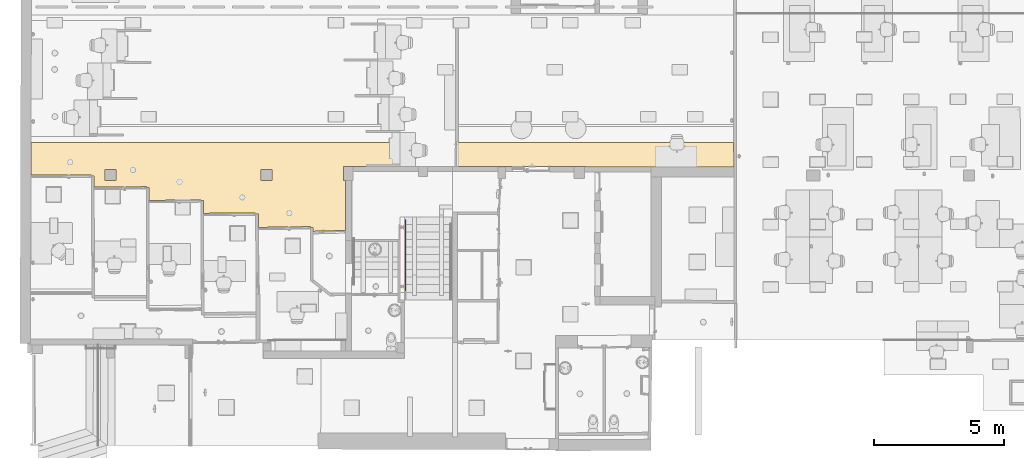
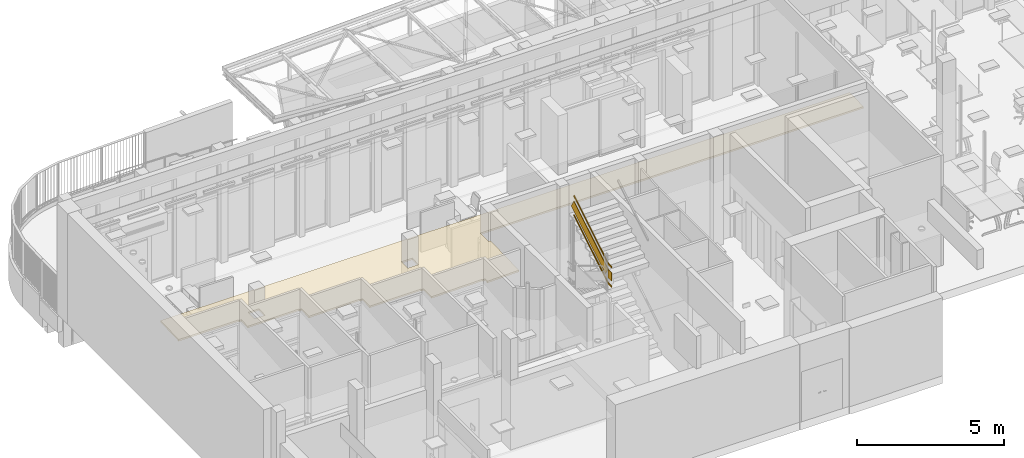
# One storey, part 59 of 128: 1 covering, 1 railing.
"""IFC2X3 building model written with IfcOpenShell, lengths in metres."""

from ifc_helpers import new_model, entity, si_unit, converted_unit, derived_unit, direction, frame, origin, place, context, subcontext, project, spatial, faceted_brep, material, material_list, layer, layer_set, layer_usage, type_object, element, save


model = new_model("IFC2X3")

# Units and contexts
model_context = context("Model", 3, precision=1e-05, world=origin(), true_north=direction((6.123031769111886e-17, 1.0)))
body_context = subcontext(model_context, "Body", "Model", "MODEL_VIEW")
ifc_project = project(units=[si_unit("LENGTHUNIT", "METRE"), si_unit("AREAUNIT", "SQUARE_METRE"), converted_unit("PLANEANGLEUNIT", "DEGREE", entity("IfcPlaneAngleMeasure", 0.017453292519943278), si_unit("PLANEANGLEUNIT", "RADIAN"), dimensions=[0, 0, 0, 0, 0, 0, 0]), derived_unit("THERMALTRANSMITTANCEUNIT", [(si_unit("MASSUNIT", "GRAM", prefix="KILO"), 1), (si_unit("THERMODYNAMICTEMPERATUREUNIT", "KELVIN"), -1), (si_unit("TIMEUNIT", "SECOND"), -3)])], contexts=[model_context])

# Site, building, storey
site_placement = place(None, origin())
site = spatial("IfcSite", under=ifc_project, at=site_placement, Name="Default", CompositionType="ELEMENT")
building_placement = place(site_placement, origin())
building = spatial("IfcBuilding", under=site, at=building_placement, CompositionType="ELEMENT")
storey_placement = place(building_placement, origin())
storey = spatial("IfcBuildingStorey", under=building, at=storey_placement, Name="00_RDC CAF", CompositionType="ELEMENT", Elevation=2.4982504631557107e-13)

# Covering
ifc_material_1 = material(Name="ARC - FP - Blanc")
ifc_layer_1 = layer(ifc_material_1, 0.02)
ifc_material_2 = material(Name="ARC - FP - Trame 600 x 600")
ifc_layer_2 = layer(ifc_material_2, 0.05)
ifc_layer_set = layer_set([ifc_layer_1, ifc_layer_2], Name="Plafond composé:FP_Dalle-600X600_70mm")
ifc_layer_usage = layer_usage(ifc_layer_set, "AXIS3", "NEGATIVE", 0.07)
covering_type = type_object("IfcCoveringType", Name="Plafond composé:FP_Dalle-600X600_70mm", PredefinedType="CEILING")
covering_placement = place(storey_placement, frame((6.6795143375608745, 134.38500959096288, 3.276880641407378)))
element("IfcCovering", 1, at=covering_placement, inside=storey, type_object=covering_type, material=ifc_layer_usage, Name="Plafond composé:FP_Dalle-600X600_70mm", ObjectType="Plafond composé:FP_Dalle-600X600_70mm", PredefinedType="CEILING", context=body_context, shape_type="Brep", body=[
    faceted_brep([(10.839464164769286, 0.0, 0.07003149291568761), (12.091199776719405, 0.032308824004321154, 0.07100075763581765), (10.839464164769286, 0.15274109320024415, 0.0746137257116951), (12.008007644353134, 1.9471749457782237, 0.1284467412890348), (12.091199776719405, 1.9471749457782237, 0.1284467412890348), (10.738803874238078, 0.1799486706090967, 0.07542995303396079), (9.265875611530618, 1.952738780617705, 0.12861365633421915), (9.265875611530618, 2.3727387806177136, 0.14121365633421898), (12.008007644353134, 2.4973949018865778, 0.1449533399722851), (8.845875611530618, 2.3727387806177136, 0.14121365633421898), (0.003583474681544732, 3.405724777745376, 0.17220323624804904), (26.997846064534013, 3.4057247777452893, 0.17220323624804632), (16.219620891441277, 2.4973949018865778, 0.1449533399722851), (21.86122971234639, 2.477775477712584, 0.14436475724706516), (26.99847640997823, 2.4777754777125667, 0.1443647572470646), (3.2638756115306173, 2.37673878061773, 0.1413336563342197), (2.8438756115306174, 2.37673878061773, 0.1413336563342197), (2.329076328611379, 2.1617878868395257, 0.13488512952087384), (0.0, 2.1695078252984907, 0.13511672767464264), (2.4288949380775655, 2.1320965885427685, 0.133994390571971), (2.3289906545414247, 2.1321115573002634, 0.1339948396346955), (2.8438756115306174, 1.9567387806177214, 0.12873365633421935), (2.430094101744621, 1.6933038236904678, 0.1208306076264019), (3.2638756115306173, 1.9567387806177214, 0.12873365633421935), (4.431200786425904, 1.713518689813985, 0.12143705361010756), (4.531625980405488, 1.6790051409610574, 0.12040164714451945), (4.431552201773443, 1.678731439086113, 0.1203934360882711), (6.530310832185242, 1.206475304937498, 0.10622575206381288), (4.532973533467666, 1.1862985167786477, 0.10562044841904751), (6.6304035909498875, 1.1753215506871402, 0.10529113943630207), (6.530310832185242, 1.1753215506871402, 0.10529113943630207), (8.845875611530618, 1.952738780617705, 0.12861365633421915), (8.633994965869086, 0.7035087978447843, 0.09113675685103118), (6.632068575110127, 0.6922209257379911, 0.09079812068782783), (8.734225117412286, 0.6681077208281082, 0.09007472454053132), (8.634196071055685, 0.6678459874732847, 0.09006687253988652), (8.73557988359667, 0.15034425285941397, 0.07454182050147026), (10.739205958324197, 0.15274109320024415, 0.0746137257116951), (16.219620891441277, 2.4973949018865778, 0.0749218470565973), (26.997846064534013, 3.4057247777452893, 0.10217174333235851), (21.86122971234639, 2.477775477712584, 0.07433326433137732), (12.008007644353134, 2.4973949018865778, 0.0749218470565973), (0.0035834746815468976, 3.405724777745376, 0.10217174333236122), (8.845875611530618, 2.3727387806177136, 0.07118216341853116), (9.265875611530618, 2.3727387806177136, 0.07118216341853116), (12.008007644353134, 1.9471749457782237, 0.05841524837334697), (9.265875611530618, 1.952738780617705, 0.05858216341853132), (9.980364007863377, 0.7914968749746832, 0.023744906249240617), (10.003145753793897, 0.7740236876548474, 0.02322071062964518), (10.020626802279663, 0.7512521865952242, 0.022537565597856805), (10.738803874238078, 0.1799486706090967, 0.005398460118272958), (10.839464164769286, 0.15274109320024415, 0.0045822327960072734), (12.091199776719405, 0.032308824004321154, 0.0009692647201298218), (12.091199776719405, 1.9471749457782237, 0.05841524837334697), (10.839464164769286, 0.0, 0.0), (10.739205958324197, 0.15274109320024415, 0.0045822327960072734), (10.031615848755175, 0.7247342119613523, 0.02174202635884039), (10.035364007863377, 0.6962769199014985, 0.020888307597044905), (10.031615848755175, 0.6678196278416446, 0.020034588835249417), (10.020626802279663, 0.6413016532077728, 0.019239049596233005), (10.003145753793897, 0.6185301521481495, 0.01855590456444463), (9.980364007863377, 0.6010569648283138, 0.01803170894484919), (9.953834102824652, 0.5900728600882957, 0.017702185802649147), (9.925364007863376, 0.5863263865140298, 0.017589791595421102), (8.73557988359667, 0.15034425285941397, 0.004510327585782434), (9.896893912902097, 0.5900728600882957, 0.017702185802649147), (9.870364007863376, 0.6010569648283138, 0.01803170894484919), (9.847582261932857, 0.6185301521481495, 0.01855590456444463), (9.830101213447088, 0.6413016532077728, 0.019239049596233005), (8.734225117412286, 0.6681077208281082, 0.020043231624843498), (8.845875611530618, 1.952738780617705, 0.05858216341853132), (9.830101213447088, 0.7512521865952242, 0.022537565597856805), (8.633994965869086, 0.7035087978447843, 0.021105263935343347), (9.819112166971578, 0.7247342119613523, 0.02174202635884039), (9.815364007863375, 0.6962769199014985, 0.020888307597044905), (9.819112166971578, 0.6678196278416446, 0.020034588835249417), (8.634196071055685, 0.6678459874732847, 0.020035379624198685), (8.23058697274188, 1.300816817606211, 0.03902450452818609), (8.226838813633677, 1.2723595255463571, 0.0381707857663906), (8.215849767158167, 1.2458415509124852, 0.03737524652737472), (8.198368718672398, 1.223070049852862, 0.036692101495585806), (8.175586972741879, 1.2055968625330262, 0.036167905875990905), (8.149057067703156, 1.1946127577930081, 0.03583838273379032), (8.12058697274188, 1.190866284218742, 0.03572598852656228), (8.092116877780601, 1.1946127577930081, 0.03583838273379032), (8.065586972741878, 1.2055968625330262, 0.036167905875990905), (6.632068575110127, 0.6922209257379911, 0.020766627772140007), (8.042805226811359, 1.223070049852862, 0.036692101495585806), (8.025324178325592, 1.2458415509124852, 0.03737524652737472), (6.6304035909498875, 1.1753215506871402, 0.03525964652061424), (8.01433513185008, 1.2723595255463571, 0.0381707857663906), (8.010586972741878, 1.300816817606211, 0.03902450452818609), (8.01433513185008, 1.3292741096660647, 0.03987822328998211), (8.025324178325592, 1.3557920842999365, 0.040673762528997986), (8.042805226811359, 1.37856358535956, 0.0413569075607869), (8.065586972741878, 1.3960367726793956, 0.0418811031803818), (6.530310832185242, 1.206475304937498, 0.036194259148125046), (6.530310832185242, 1.1753215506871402, 0.03525964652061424), (4.018981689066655, 2.4079304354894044, 0.07223791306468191), (4.531625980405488, 1.6790051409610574, 0.05037015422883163), (4.532973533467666, 1.1862985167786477, 0.035588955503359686), (4.029970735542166, 2.3814124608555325, 0.07144237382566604), (4.033718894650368, 2.352955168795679, 0.07058865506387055), (4.431200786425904, 1.713518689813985, 0.05140556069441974), (4.431552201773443, 1.678731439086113, 0.05036194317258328), (4.029970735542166, 2.324497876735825, 0.06973493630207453), (4.018981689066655, 2.297979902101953, 0.06893939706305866), (4.001500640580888, 2.2752084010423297, 0.06825625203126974), (3.978718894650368, 2.257735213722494, 0.06773205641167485), (3.9521889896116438, 2.246751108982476, 0.06740253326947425), (3.9237188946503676, 2.24300463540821, 0.06729013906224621), (3.895248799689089, 2.246751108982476, 0.06740253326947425), (3.2638756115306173, 1.9567387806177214, 0.05870216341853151), (2.430094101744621, 1.6933038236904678, 0.05079911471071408), (2.8438756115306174, 1.9567387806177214, 0.05870216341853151), (2.4288949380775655, 2.1320965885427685, 0.06396289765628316), (2.8438756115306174, 2.37673878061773, 0.07130216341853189), (2.329076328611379, 2.1617878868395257, 0.06485363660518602), (2.3289906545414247, 2.1321115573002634, 0.06396334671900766), (1.6159707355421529, 2.682277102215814, 0.08046831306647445), (1.6197188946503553, 2.6538198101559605, 0.07961459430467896), (1.6159707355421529, 2.6253625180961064, 0.07876087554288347), (1.6049816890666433, 2.5988445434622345, 0.07796533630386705), (1.5875006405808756, 2.5760730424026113, 0.07728219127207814), (1.564718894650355, 2.5585998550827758, 0.07675799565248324), (1.5381889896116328, 2.5476157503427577, 0.07642847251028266), (1.5097188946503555, 2.5438692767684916, 0.07631607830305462), (1.4812487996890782, 2.5476157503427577, 0.07642847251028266), (0.0, 2.1695078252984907, 0.06508523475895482), (1.4034670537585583, 2.682277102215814, 0.08046831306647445), (1.3997188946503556, 2.6538198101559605, 0.07961459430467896), (1.4034670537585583, 2.6253625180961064, 0.07876087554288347), (1.4144561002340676, 2.5988445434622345, 0.07796533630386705), (1.454718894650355, 2.5585998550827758, 0.07675799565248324), (1.4319371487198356, 2.5760730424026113, 0.07728219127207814), (1.6049816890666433, 2.708795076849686, 0.08126385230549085), (1.5875006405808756, 2.7315665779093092, 0.08194699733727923), (1.564718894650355, 2.749039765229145, 0.08247119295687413), (3.2638756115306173, 2.37673878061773, 0.07130216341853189), (3.895248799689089, 2.4591592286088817, 0.07377477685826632), (1.5381889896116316, 2.7600238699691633, 0.08280071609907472), (3.9237188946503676, 2.4629057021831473, 0.07388717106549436), (1.5097188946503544, 2.763770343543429, 0.08291311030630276), (1.481248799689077, 2.7600238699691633, 0.08280071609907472), (1.454718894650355, 2.749039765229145, 0.08247119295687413), (1.4319371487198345, 2.7315665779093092, 0.08194699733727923), (1.4144561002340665, 2.708795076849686, 0.08126385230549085), (3.9521889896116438, 2.4591592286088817, 0.07377477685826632), (3.868718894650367, 2.4481751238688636, 0.07344525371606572), (3.8459371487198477, 2.4307019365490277, 0.07292105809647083), (3.82845610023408, 2.4079304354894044, 0.07223791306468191), (3.8174670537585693, 2.3814124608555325, 0.07144237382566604), (3.813718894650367, 2.352955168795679, 0.07058865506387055), (3.8174670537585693, 2.324497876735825, 0.06973493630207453), (3.82845610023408, 2.297979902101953, 0.06893939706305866), (3.8459371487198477, 2.2752084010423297, 0.06825625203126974), (3.868718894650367, 2.257735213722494, 0.06773205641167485), (4.001500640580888, 2.4307019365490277, 0.07292105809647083), (3.978718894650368, 2.4481751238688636, 0.07344525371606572), (8.092116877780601, 1.4070208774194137, 0.042210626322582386), (8.226838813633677, 1.3292741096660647, 0.03987822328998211), (8.215849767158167, 1.3557920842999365, 0.040673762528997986), (8.198368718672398, 1.37856358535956, 0.0413569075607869), (8.175586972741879, 1.3960367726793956, 0.0418811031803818), (8.149057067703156, 1.4070208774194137, 0.042210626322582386), (8.12058697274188, 1.4107673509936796, 0.04232302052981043), (9.953834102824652, 0.8024809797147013, 0.024074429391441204), (9.925364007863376, 0.8062274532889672, 0.024186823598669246), (9.896893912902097, 0.8024809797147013, 0.024074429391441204), (9.870364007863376, 0.7914968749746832, 0.023744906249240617), (9.847582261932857, 0.7740236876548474, 0.02322071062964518), (26.99847640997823, 2.4777754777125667, 0.07433326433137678), (1.564718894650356, 2.557100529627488, 0.12673551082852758), (1.5381889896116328, 2.5461164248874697, 0.126405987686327), (1.5097188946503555, 2.542369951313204, 0.1262935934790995), (1.4812487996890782, 2.5461164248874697, 0.126405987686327), (1.4547188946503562, 2.557100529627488, 0.12673551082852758), (1.4319371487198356, 2.5745737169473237, 0.127259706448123), (1.4144561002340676, 2.597345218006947, 0.12794285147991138), (1.4034670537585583, 2.623863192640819, 0.1287383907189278), (1.3997188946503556, 2.6523204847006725, 0.12959210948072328), (1.4034670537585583, 2.6807777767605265, 0.13044582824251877), (1.4144561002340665, 2.7072957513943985, 0.13124136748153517), (1.4319371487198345, 2.7300672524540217, 0.13192451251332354), (1.454718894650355, 2.747540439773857, 0.132448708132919), (1.481248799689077, 2.7585245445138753, 0.1327782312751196), (1.5097188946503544, 2.7622710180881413, 0.1328906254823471), (1.5381889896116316, 2.7585245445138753, 0.1327782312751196), (1.564718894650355, 2.747540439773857, 0.132448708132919), (1.5875006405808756, 2.7300672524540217, 0.1319245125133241), (1.6049816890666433, 2.7072957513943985, 0.13124136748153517), (1.6159707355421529, 2.6807777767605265, 0.13044582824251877), (1.6197188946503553, 2.6523204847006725, 0.12959210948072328), (1.6159707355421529, 2.623863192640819, 0.1287383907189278), (1.6049816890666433, 2.597345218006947, 0.12794285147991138), (1.5875006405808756, 2.5745737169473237, 0.127259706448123), (3.978718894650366, 2.2562358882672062, 0.11770957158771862), (3.9521889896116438, 2.245251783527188, 0.11738004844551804), (3.9237188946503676, 2.2415053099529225, 0.11726765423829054), (3.895248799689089, 2.245251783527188, 0.11738004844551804), (3.868718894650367, 2.2562358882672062, 0.11770957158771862), (3.8459371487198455, 2.273709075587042, 0.11823376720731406), (3.8284561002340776, 2.2964805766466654, 0.11891691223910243), (3.8174670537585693, 2.3229985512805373, 0.11971245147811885), (3.813718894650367, 2.351455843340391, 0.12056617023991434), (3.8174670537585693, 2.379913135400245, 0.12141988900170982), (3.8284561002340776, 2.406431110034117, 0.12221542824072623), (3.8459371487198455, 2.42920261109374, 0.1228985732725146), (3.8687188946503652, 2.4466757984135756, 0.12342276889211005), (3.895248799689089, 2.4576599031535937, 0.12375229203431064), (3.9237188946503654, 2.46140637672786, 0.12386468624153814), (3.9521889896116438, 2.4576599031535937, 0.12375229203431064), (3.978718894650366, 2.4466757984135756, 0.12342276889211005), (4.001500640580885, 2.42920261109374, 0.12289857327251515), (4.018981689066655, 2.406431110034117, 0.12221542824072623), (4.029970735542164, 2.379913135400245, 0.12141988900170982), (4.033718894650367, 2.351455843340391, 0.12056617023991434), (4.029970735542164, 2.3229985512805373, 0.11971245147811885), (4.018981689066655, 2.2964805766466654, 0.11891691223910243), (4.001500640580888, 2.273709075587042, 0.11823376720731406), (8.175586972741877, 1.2040975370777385, 0.0861454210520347), (8.149057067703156, 1.1931134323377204, 0.08581589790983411), (8.12058697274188, 1.1893669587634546, 0.08570350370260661), (8.092116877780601, 1.1931134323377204, 0.08581589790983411), (8.065586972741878, 1.2040975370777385, 0.0861454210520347), (8.042805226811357, 1.2215707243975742, 0.08666961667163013), (8.025324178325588, 1.2443422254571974, 0.0873527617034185), (8.01433513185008, 1.2708602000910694, 0.08814830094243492), (8.010586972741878, 1.2993174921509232, 0.08900201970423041), (8.01433513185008, 1.327774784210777, 0.08985573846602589), (8.025324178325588, 1.354292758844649, 0.0906512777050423), (8.042805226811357, 1.3770642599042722, 0.09133442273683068), (8.065586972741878, 1.3945374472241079, 0.09185861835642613), (8.092116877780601, 1.405521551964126, 0.09218814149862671), (8.120586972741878, 1.4092680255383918, 0.09230053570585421), (8.149057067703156, 1.405521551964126, 0.09218814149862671), (8.175586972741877, 1.3945374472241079, 0.09185861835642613), (8.198368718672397, 1.3770642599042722, 0.09133442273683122), (8.215849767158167, 1.354292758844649, 0.0906512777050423), (8.226838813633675, 1.327774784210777, 0.08985573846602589), (8.230586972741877, 1.2993174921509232, 0.08900201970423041), (8.226838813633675, 1.2708602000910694, 0.08814830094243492), (8.215849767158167, 1.2443422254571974, 0.0873527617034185), (8.198368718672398, 1.2215707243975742, 0.08666961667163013), (9.980364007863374, 0.5995576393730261, 0.06800922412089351), (9.953834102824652, 0.588573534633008, 0.06767970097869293), (9.925364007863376, 0.5848270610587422, 0.06756730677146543), (9.896893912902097, 0.588573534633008, 0.06767970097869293), (9.870364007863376, 0.5995576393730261, 0.06800922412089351), (9.847582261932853, 0.6170308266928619, 0.06853341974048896), (9.830101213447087, 0.6398023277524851, 0.06921656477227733), (9.819112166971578, 0.666320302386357, 0.07001210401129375), (9.815364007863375, 0.6947775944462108, 0.07086582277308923), (9.819112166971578, 0.7232348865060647, 0.07171954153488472), (9.830101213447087, 0.7497528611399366, 0.07251508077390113), (9.847582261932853, 0.7725243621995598, 0.0731982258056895), (9.870364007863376, 0.7899975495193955, 0.07372242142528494), (9.896893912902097, 0.8009816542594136, 0.07405194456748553), (9.925364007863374, 0.8047281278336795, 0.07416433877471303), (9.953834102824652, 0.8009816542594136, 0.07405194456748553), (9.980364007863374, 0.7899975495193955, 0.07372242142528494), (10.003145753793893, 0.7725243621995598, 0.07319822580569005), (10.020626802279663, 0.7497528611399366, 0.07251508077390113), (10.031615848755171, 0.7232348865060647, 0.07171954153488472), (10.035364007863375, 0.6947775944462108, 0.07086582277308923), (10.031615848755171, 0.666320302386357, 0.07001210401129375), (10.020626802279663, 0.6398023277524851, 0.06921656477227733), (10.003145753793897, 0.6170308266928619, 0.06853341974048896)], [[[0, 1, 2]], [[1, 3, 2]], [[4, 3, 1]], [[5, 2, 3]], [[5, 3, 6]], [[6, 3, 7]], [[3, 8, 7]], [[8, 9, 7]], [[9, 8, 10]], [[10, 8, 11]], [[8, 12, 11]], [[12, 13, 11]], [[14, 11, 13]], [[15, 9, 10]], [[10, 16, 15]], [[17, 16, 10]], [[17, 10, 18]], [[16, 17, 19]], [[19, 17, 20]], [[19, 21, 16]], [[22, 21, 19]], [[21, 22, 23]], [[23, 22, 24]], [[15, 24, 25]], [[24, 26, 25]], [[23, 24, 15]], [[9, 15, 25]], [[25, 27, 9]], [[28, 27, 25]], [[29, 9, 27]], [[27, 30, 29]], [[29, 31, 9]], [[32, 31, 29]], [[33, 32, 29]], [[32, 34, 31]], [[32, 35, 34]], [[6, 34, 5]], [[36, 5, 34]], [[6, 31, 34]], [[5, 37, 2]], [[38, 39, 40]], [[38, 41, 39]], [[41, 42, 39]], [[43, 42, 41]], [[44, 43, 41]], [[44, 41, 45]], [[46, 44, 45]], [[47, 46, 45]], [[45, 48, 47]], [[48, 45, 49]], [[49, 45, 50]], [[45, 51, 50]], [[52, 51, 45]], [[52, 45, 53]], [[51, 52, 54]], [[51, 55, 50]], [[50, 56, 49]], [[50, 57, 56]], [[58, 57, 50]], [[58, 50, 59]], [[60, 59, 50]], [[60, 50, 61]], [[50, 62, 61]], [[50, 63, 62]], [[50, 64, 63]], [[63, 64, 65]], [[66, 65, 64]], [[66, 64, 67]], [[67, 64, 68]], [[68, 64, 69]], [[70, 46, 69]], [[71, 69, 46]], [[72, 70, 69]], [[69, 71, 73]], [[73, 74, 69]], [[69, 74, 75]], [[72, 69, 76]], [[68, 69, 75]], [[77, 70, 72]], [[78, 77, 72]], [[79, 78, 72]], [[79, 72, 80]], [[81, 80, 72]], [[72, 82, 81]], [[82, 72, 83]], [[83, 72, 84]], [[72, 85, 84]], [[86, 85, 72]], [[85, 86, 87]], [[88, 87, 86]], [[86, 89, 88]], [[89, 90, 88]], [[91, 90, 89]], [[92, 91, 89]], [[89, 93, 92]], [[89, 94, 93]], [[89, 95, 94]], [[96, 95, 89]], [[96, 89, 97]], [[96, 98, 43]], [[43, 95, 96]], [[98, 96, 99]], [[96, 100, 99]], [[98, 99, 101]], [[101, 99, 102]], [[102, 99, 103]], [[99, 104, 103]], [[102, 103, 105]], [[103, 106, 105]], [[107, 106, 103]], [[108, 107, 103]], [[103, 109, 108]], [[103, 110, 109]], [[111, 110, 103]], [[111, 103, 112]], [[103, 113, 112]], [[113, 114, 112]], [[113, 115, 114]], [[114, 115, 116]], [[115, 117, 116]], [[115, 118, 117]], [[117, 119, 116]], [[120, 119, 117]], [[121, 120, 117]], [[117, 122, 121]], [[123, 122, 117]], [[123, 117, 124]], [[124, 117, 125]], [[125, 117, 126]], [[126, 117, 127]], [[128, 127, 117]], [[42, 129, 128]], [[128, 129, 130]], [[130, 131, 128]], [[128, 131, 132]], [[127, 128, 133]], [[134, 133, 128]], [[134, 128, 132]], [[119, 135, 116]], [[136, 116, 135]], [[136, 137, 116]], [[116, 137, 138]], [[139, 138, 137]], [[137, 140, 139]], [[141, 139, 140]], [[140, 142, 42]], [[140, 42, 141]], [[143, 42, 142]], [[143, 144, 42]], [[145, 42, 144]], [[42, 145, 146]], [[146, 129, 42]], [[147, 141, 42]], [[139, 148, 138]], [[148, 149, 138]], [[149, 150, 138]], [[150, 151, 138]], [[152, 138, 151]], [[152, 153, 138]], [[153, 154, 138]], [[155, 112, 154]], [[154, 112, 138]], [[155, 156, 112]], [[156, 111, 112]], [[98, 157, 43]], [[157, 158, 43]], [[158, 147, 43]], [[159, 95, 43]], [[70, 77, 160]], [[70, 160, 161]], [[162, 70, 161]], [[70, 162, 163]], [[164, 70, 163]], [[165, 70, 164]], [[165, 43, 70]], [[43, 165, 159]], [[47, 166, 46]], [[167, 46, 166]], [[167, 168, 46]], [[46, 168, 169]], [[170, 46, 169]], [[71, 46, 170]], [[42, 43, 147]], [[40, 39, 171]], [[17, 18, 128, 117]], [[22, 19, 115, 113]], [[24, 22, 113, 103]], [[26, 24, 103, 104]], [[25, 26, 104, 99]], [[28, 25, 99, 100]], [[27, 28, 100, 96]], [[30, 27, 96, 97]], [[29, 30, 97, 89]], [[33, 29, 89, 86]], [[32, 33, 86, 72]], [[35, 32, 72, 76]], [[34, 35, 76, 69]], [[36, 34, 69, 64]], [[5, 36, 64, 50]], [[37, 5, 50, 55]], [[2, 37, 55, 51]], [[0, 2, 51, 54]], [[4, 1, 52, 53]], [[11, 14, 171, 39]], [[10, 11, 39, 42]], [[18, 10, 42, 128]], [[20, 17, 117, 118]], [[19, 20, 118, 115]], [[172, 173, 174, 175, 176, 177, 178, 179, 180, 181, 182, 183, 184, 185, 186, 187, 188, 189, 190, 191, 192, 193, 194, 195]], [[196, 197, 198, 199, 200, 201, 202, 203, 204, 205, 206, 207, 208, 209, 210, 211, 212, 213, 214, 215, 216, 217, 218, 219]], [[220, 221, 222, 223, 224, 225, 226, 227, 228, 229, 230, 231, 232, 233, 234, 235, 236, 237, 238, 239, 240, 241, 242, 243]], [[244, 245, 246, 247, 248, 249, 250, 251, 252, 253, 254, 255, 256, 257, 258, 259, 260, 261, 262, 263, 264, 265, 266, 267]], [[180, 130, 129, 181]], [[181, 129, 146, 182]], [[184, 183, 145, 144]], [[145, 183, 182, 146]], [[185, 184, 144, 143]], [[185, 143, 142, 186]], [[186, 142, 140, 187]], [[187, 140, 137, 188]], [[136, 189, 188, 137]], [[135, 190, 189, 136]], [[120, 192, 191, 119]], [[135, 119, 191, 190]], [[192, 120, 121, 193]], [[193, 121, 122, 194]], [[172, 195, 123, 124]], [[123, 195, 194, 122]], [[173, 172, 124, 125]], [[173, 125, 126, 174]], [[127, 175, 174, 126]], [[179, 178, 132, 131]], [[177, 134, 132, 178]], [[179, 131, 130, 180]], [[133, 176, 175, 127]], [[133, 134, 177, 176]], [[204, 152, 151, 205]], [[205, 151, 150, 206]], [[208, 207, 149, 148]], [[149, 207, 206, 150]], [[209, 208, 148, 139]], [[209, 139, 141, 210]], [[210, 141, 147, 211]], [[211, 147, 158, 212]], [[157, 213, 212, 158]], [[98, 214, 213, 157]], [[102, 216, 215, 101]], [[98, 101, 215, 214]], [[216, 102, 105, 217]], [[217, 105, 106, 218]], [[196, 219, 107, 108]], [[107, 219, 218, 106]], [[197, 196, 108, 109]], [[197, 109, 110, 198]], [[111, 199, 198, 110]], [[203, 202, 154, 153]], [[201, 155, 154, 202]], [[203, 153, 152, 204]], [[156, 200, 199, 111]], [[156, 155, 201, 200]], [[228, 91, 92, 229]], [[229, 92, 93, 230]], [[232, 231, 94, 95]], [[94, 231, 230, 93]], [[233, 232, 95, 159]], [[233, 159, 165, 234]], [[234, 165, 164, 235]], [[235, 164, 163, 236]], [[162, 237, 236, 163]], [[161, 238, 237, 162]], [[77, 240, 239, 160]], [[161, 160, 239, 238]], [[240, 77, 78, 241]], [[241, 78, 79, 242]], [[220, 243, 80, 81]], [[80, 243, 242, 79]], [[221, 220, 81, 82]], [[221, 82, 83, 222]], [[84, 223, 222, 83]], [[227, 226, 88, 90]], [[225, 87, 88, 226]], [[227, 90, 91, 228]], [[85, 224, 223, 84]], [[85, 87, 225, 224]], [[252, 74, 73, 253]], [[253, 73, 71, 254]], [[256, 255, 170, 169]], [[170, 255, 254, 71]], [[257, 256, 169, 168]], [[257, 168, 167, 258]], [[258, 167, 166, 259]], [[259, 166, 47, 260]], [[48, 261, 260, 47]], [[49, 262, 261, 48]], [[57, 264, 263, 56]], [[49, 56, 263, 262]], [[264, 57, 58, 265]], [[265, 58, 59, 266]], [[244, 267, 60, 61]], [[60, 267, 266, 59]], [[245, 244, 61, 62]], [[245, 62, 63, 246]], [[65, 247, 246, 63]], [[251, 250, 68, 75]], [[249, 67, 68, 250]], [[251, 75, 74, 252]], [[66, 248, 247, 65]], [[66, 67, 249, 248]], [[1, 0, 54, 52]], [[3, 4, 53, 45]], [[8, 3, 45, 41]], [[12, 8, 41, 38]], [[13, 12, 38, 40]], [[14, 13, 40, 171]], [[7, 9, 43, 44]], [[6, 7, 44, 46]], [[31, 6, 46, 70]], [[9, 31, 70, 43]], [[16, 21, 114, 116]], [[15, 16, 116, 138]], [[23, 15, 138, 112]], [[21, 23, 112, 114]]]),
])

# Railing
ifc_material_3 = material(Name="STR - Acier")
ifc_material_4 = material(Name="ARC - Metal")
ifc_material_list = material_list([ifc_material_3, ifc_material_4])
railing_type = type_object("IfcRailingType", Name="Garde-corps:GC_1_lisse_40x30+Plein_900mm", PredefinedType="NOTDEFINED")
railing_placement = place(storey_placement, frame((21.05335245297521, 132.093483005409, 3.2437501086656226)))
element("IfcRailing", 2, at=railing_placement, inside=storey, type_object=railing_type, material=ifc_material_list, Name="Garde-corps:GC_1_lisse_40x30+Plein_900mm", ObjectType="Garde-corps:GC_1_lisse_40x30+Plein_900mm", PredefinedType="NOTDEFINED", context=body_context, shape_type="Brep", body=[
    faceted_brep([(0.005775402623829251, 0.0, 0.6056345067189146), (0.0057754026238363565, 0.0, 0.25563450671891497), (0.02577540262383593, 0.0, 0.25563450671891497), (0.025775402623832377, 0.0, 0.6056345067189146), (0.005775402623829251, 0.2400000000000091, 0.6056345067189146), (0.02577540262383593, 0.2400000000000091, 0.6056345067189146), (0.02577540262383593, 0.2400000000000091, 0.25563450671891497), (0.005775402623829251, 0.2400000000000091, 0.25563450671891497)], [[[0, 1, 2, 3]], [[4, 5, 6, 7]], [[1, 0, 4, 7]], [[2, 1, 7, 6]], [[3, 2, 6, 5]], [[0, 3, 5, 4]]]),
    faceted_brep([(0.030000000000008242, 0.0, 0.050000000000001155), (0.0, 0.0, 0.050000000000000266), (0.0, 0.0, 0.0), (0.03000000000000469, 0.0, 0.0), (0.030000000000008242, 0.2331822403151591, 0.050000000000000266), (0.0, 0.2331822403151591, 0.04999999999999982), (0.0, 0.24717284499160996, 0.0), (0.03000000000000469, 0.24717284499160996, 0.0), (0.030000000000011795, 2.5531822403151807, 1.4586153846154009), (0.0, 2.5531822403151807, 1.4586153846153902), (0.0, 2.5671728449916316, 1.408615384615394), (0.030000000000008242, 2.5671728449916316, 1.408615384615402), (0.030000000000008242, 2.580000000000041, 1.458615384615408), (0.030000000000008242, 2.580000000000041, 1.4086153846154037), (0.0, 2.580000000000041, 1.4086153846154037), (0.0, 2.580000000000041, 1.458615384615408)], [[[0, 1, 2, 3]], [[1, 0, 4, 5]], [[2, 1, 5, 6]], [[3, 2, 6, 7]], [[0, 3, 7, 4]], [[5, 4, 8, 9]], [[6, 5, 9, 10]], [[7, 6, 10, 11]], [[4, 7, 11, 8]], [[12, 13, 14, 15]], [[9, 8, 12, 15]], [[10, 9, 15, 14]], [[11, 10, 14, 13]], [[8, 11, 13, 12]]]),
    faceted_brep([(0.005775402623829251, 0.2400000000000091, 0.6056345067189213), (0.0057754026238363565, 0.4216464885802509, 0.3064613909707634), (0.02577540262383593, 0.4216464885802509, 0.3064613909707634), (0.025775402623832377, 0.2400000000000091, 0.6056345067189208), (0.0057754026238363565, 2.5600000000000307, 2.0142498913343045), (0.025775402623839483, 2.5600000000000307, 2.0142498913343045), (0.025775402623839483, 2.7416464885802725, 1.7150767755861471), (0.0057754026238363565, 2.7416464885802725, 1.7150767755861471)], [[[0, 1, 2, 3]], [[4, 5, 6, 7]], [[1, 0, 4, 7]], [[2, 1, 7, 6]], [[3, 2, 6, 5]], [[0, 3, 5, 4]]]),
    faceted_brep([(0.0057754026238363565, 2.5600000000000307, 2.014249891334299), (0.005775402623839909, 2.5600000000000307, 1.6642498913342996), (0.025775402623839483, 2.5600000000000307, 1.6642498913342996), (0.02577540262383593, 2.5600000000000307, 2.014249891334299), (0.0057754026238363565, 2.580000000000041, 2.014249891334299), (0.025775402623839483, 2.580000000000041, 2.014249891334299), (0.025775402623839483, 2.580000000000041, 1.6642498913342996), (0.0057754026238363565, 2.580000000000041, 1.6642498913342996)], [[[0, 1, 2, 3]], [[4, 5, 6, 7]], [[1, 0, 4, 7]], [[2, 1, 7, 6]], [[3, 2, 6, 5]], [[0, 3, 5, 4]]]),
    faceted_brep([(0.0015508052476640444, 0.0, 0.8500000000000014), (0.0015508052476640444, 0.0, 0.8000000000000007), (0.03155080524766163, 0.0, 0.8000000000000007), (0.03155080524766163, 0.0, 0.8500000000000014), (0.0015508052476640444, 0.2331822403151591, 0.8500000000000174), (0.0015508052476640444, 0.24717284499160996, 0.7999999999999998), (0.03155080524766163, 0.24717284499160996, 0.7999999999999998), (0.03155080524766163, 0.2331822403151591, 0.8500000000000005), (0.0015508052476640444, 2.5600000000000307, 2.2627548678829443), (0.03155080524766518, 2.5600000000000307, 2.2627548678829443), (0.031550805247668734, 2.5600000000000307, 2.204260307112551), (0.001550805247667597, 2.5600000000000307, 2.204260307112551)], [[[0, 1, 2, 3]], [[1, 0, 4, 5]], [[2, 1, 5, 6]], [[3, 2, 6, 7]], [[0, 3, 7, 4]], [[8, 9, 10, 11]], [[5, 4, 8, 11]], [[6, 5, 11, 10]], [[7, 6, 10, 9]], [[4, 7, 9, 8]]]),
])

save(model, "model.ifc")
